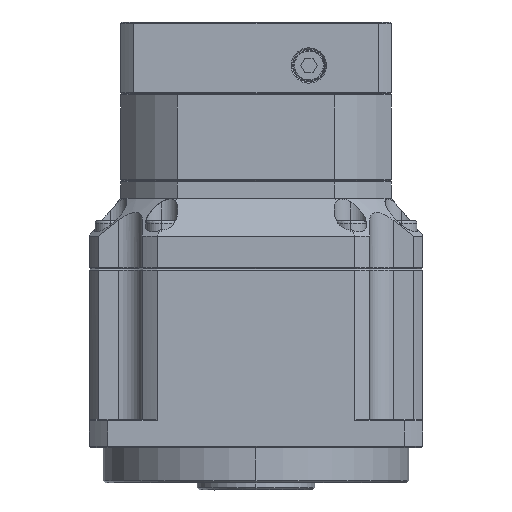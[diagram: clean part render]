
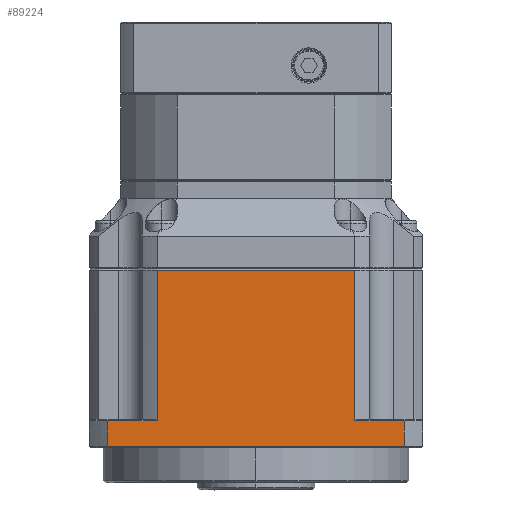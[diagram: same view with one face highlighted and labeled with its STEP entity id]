
A CAD part, left-side view. The second image highlights one B-rep face of the part: STEP entity #89224.
In plain terms, the highlighted planar face has unit normal (1, 0, 0).
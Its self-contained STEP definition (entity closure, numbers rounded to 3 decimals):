
#785 = CARTESIAN_POINT ( 'NONE',  ( -71., -63.119, 38. ) ) ;
#2463 = AXIS2_PLACEMENT_3D ( 'NONE', #4168, #53119, #11174 ) ;
#3494 = CARTESIAN_POINT ( 'NONE',  ( -71., 63.119, 0.5 ) ) ;
#4110 = VECTOR ( 'NONE', #69306, 1000. ) ;
#4168 = CARTESIAN_POINT ( 'NONE',  ( -71., -63.119, 0.5 ) ) ;
#6679 = ORIENTED_EDGE ( 'NONE', *, *, #44934, .F. ) ;
#7672 = VERTEX_POINT ( 'NONE', #61358 ) ;
#9000 = EDGE_CURVE ( 'NONE', #12194, #76788, #50703, .T. ) ;
#11174 = DIRECTION ( 'NONE',  ( 0., 1., 0. ) ) ;
#11271 = EDGE_CURVE ( 'NONE', #50262, #79288, #50702, .T. ) ;
#12194 = VERTEX_POINT ( 'NONE', #3494 ) ;
#13891 = VECTOR ( 'NONE', #49389, 1000. ) ;
#17777 = EDGE_CURVE ( 'NONE', #79288, #25620, #32553, .T. ) ;
#18279 = VECTOR ( 'NONE', #84669, 1000. ) ;
#20400 = ORIENTED_EDGE ( 'NONE', *, *, #26444, .F. ) ;
#21722 = ORIENTED_EDGE ( 'NONE', *, *, #80464, .F. ) ;
#24329 = LINE ( 'NONE', #85074, #61460 ) ;
#24675 = PLANE ( 'NONE',  #2463 ) ;
#25620 = VERTEX_POINT ( 'NONE', #78050 ) ;
#26444 = EDGE_CURVE ( 'NONE', #76658, #7672, #66629, .T. ) ;
#27470 = CARTESIAN_POINT ( 'NONE',  ( -71., -42.015, 38. ) ) ;
#29188 = ORIENTED_EDGE ( 'NONE', *, *, #53220, .F. ) ;
#32118 = VECTOR ( 'NONE', #63495, 1000. ) ;
#32553 = LINE ( 'NONE', #76834, #13891 ) ;
#38787 = EDGE_LOOP ( 'NONE', ( #20400, #21722, #58896, #29188, #80273, #79065, #6679, #42837 ) ) ;
#39179 = CARTESIAN_POINT ( 'NONE',  ( -71., 0., 11.5 ) ) ;
#41318 = CARTESIAN_POINT ( 'NONE',  ( -71., -63.119, 0.5 ) ) ;
#42837 = ORIENTED_EDGE ( 'NONE', *, *, #83124, .F. ) ;
#43294 = DIRECTION ( 'NONE',  ( 0., 1., 0. ) ) ;
#43676 = VECTOR ( 'NONE', #70765, 1000. ) ;
#44177 = VERTEX_POINT ( 'NONE', #68156 ) ;
#44934 = EDGE_CURVE ( 'NONE', #44177, #50262, #59877, .T. ) ;
#47567 = LINE ( 'NONE', #39179, #66171 ) ;
#48493 = VECTOR ( 'NONE', #60807, 1000. ) ;
#49389 = DIRECTION ( 'NONE',  ( 0., 0., -1. ) ) ;
#50262 = VERTEX_POINT ( 'NONE', #68606 ) ;
#50702 = LINE ( 'NONE', #74875, #48493 ) ;
#50703 = LINE ( 'NONE', #77539, #32118 ) ;
#51086 = FACE_OUTER_BOUND ( 'NONE', #38787, .T. ) ;
#52940 = DIRECTION ( 'NONE',  ( 0., 1., 0. ) ) ;
#53119 = DIRECTION ( 'NONE',  ( 1., 0., 0. ) ) ;
#53220 = EDGE_CURVE ( 'NONE', #25620, #76788, #47567, .T. ) ;
#58896 = ORIENTED_EDGE ( 'NONE', *, *, #9000, .T. ) ;
#59877 = LINE ( 'NONE', #27470, #4110 ) ;
#60807 = DIRECTION ( 'NONE',  ( 0., 1., 0. ) ) ;
#61358 = CARTESIAN_POINT ( 'NONE',  ( -71., -63.119, 11.5 ) ) ;
#61460 = VECTOR ( 'NONE', #43294, 1000. ) ;
#63495 = DIRECTION ( 'NONE',  ( 0., 0., 1. ) ) ;
#64847 = CARTESIAN_POINT ( 'NONE',  ( -71., 42.015, 75.5 ) ) ;
#66171 = VECTOR ( 'NONE', #52940, 1000. ) ;
#66629 = LINE ( 'NONE', #785, #43676 ) ;
#68156 = CARTESIAN_POINT ( 'NONE',  ( -71., -42.015, 11.5 ) ) ;
#68606 = CARTESIAN_POINT ( 'NONE',  ( -71., -42.015, 75.5 ) ) ;
#69306 = DIRECTION ( 'NONE',  ( 0., 0., 1. ) ) ;
#70682 = CARTESIAN_POINT ( 'NONE',  ( -71., 0., 0.5 ) ) ;
#70765 = DIRECTION ( 'NONE',  ( 0., 0., 1. ) ) ;
#71850 = LINE ( 'NONE', #70682, #18279 ) ;
#74875 = CARTESIAN_POINT ( 'NONE',  ( -71., 0., 75.5 ) ) ;
#76658 = VERTEX_POINT ( 'NONE', #41318 ) ;
#76788 = VERTEX_POINT ( 'NONE', #85195 ) ;
#76834 = CARTESIAN_POINT ( 'NONE',  ( -71., 42.015, 38. ) ) ;
#77539 = CARTESIAN_POINT ( 'NONE',  ( -71., 63.119, 6. ) ) ;
#78050 = CARTESIAN_POINT ( 'NONE',  ( -71., 42.015, 11.5 ) ) ;
#79065 = ORIENTED_EDGE ( 'NONE', *, *, #11271, .F. ) ;
#79288 = VERTEX_POINT ( 'NONE', #64847 ) ;
#80273 = ORIENTED_EDGE ( 'NONE', *, *, #17777, .F. ) ;
#80464 = EDGE_CURVE ( 'NONE', #12194, #76658, #71850, .T. ) ;
#83124 = EDGE_CURVE ( 'NONE', #7672, #44177, #24329, .T. ) ;
#84669 = DIRECTION ( 'NONE',  ( 0., -1., 0. ) ) ;
#85074 = CARTESIAN_POINT ( 'NONE',  ( -71., 0., 11.5 ) ) ;
#85195 = CARTESIAN_POINT ( 'NONE',  ( -71., 63.119, 11.5 ) ) ;
#89224 = ADVANCED_FACE ( 'NONE', ( #51086 ), #24675, .T. ) ;
